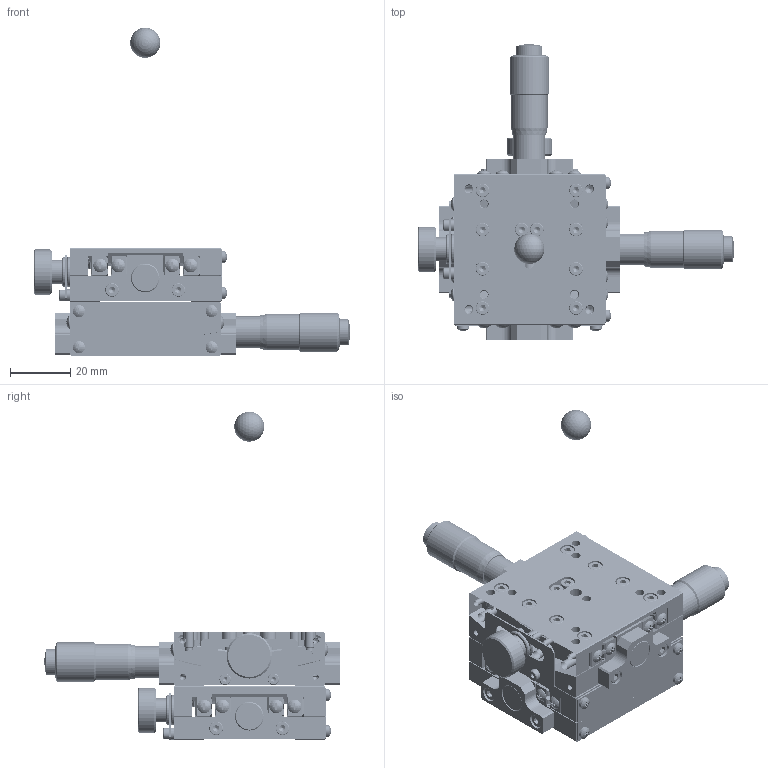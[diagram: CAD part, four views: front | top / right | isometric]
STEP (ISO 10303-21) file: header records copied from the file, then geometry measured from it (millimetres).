
FILE_DESCRIPTION (( 'STEP AP214' ), '1' );
FILE_NAME ('ST05A-C1L.STEP', '2007-01-19T01:30:13', ( ' ' ), ( ' ' ), 'SwSTEP 2.0', 'SolidWorks 2006052', '' );
FILE_SCHEMA (( 'AUTOMOTIVE_DESIGN' ));
Length unit declared in the file: millimetre
Products named in the file (11): 002570-1010(3D)-3; MICROMETERHEAD(MHS4-13)spindle-9; ST05A-C1L-Part-1; 002580-1020(3D)-2; ST05A-C1M(PL)-1; 002560-1130(3D)-9; MICROMETERHEAD(MHS4-13)spindle-8; ST05A-C1B(PL); ST05A-C1L; 002560-1130(3D)-8; 002580-1010(3D)-2
Assembly tree (10 placements, depth 3):
  ST05A-C1L
    ST05A-C1M(PL)-1
      MICROMETERHEAD(MHS4-13)spindle-9
      002570-1010(3D)-3
      002560-1130(3D)-9
    ST05A-C1L-Part-1
    ST05A-C1B(PL)
      002580-1020(3D)-2
      MICROMETERHEAD(MHS4-13)spindle-8
      002560-1130(3D)-8
      002580-1010(3D)-2
Bounding box: 105 x 98 x 109 mm (x, y, z)
Volume: 93009.2 mm3; surface area: 64837.4 mm2
Topology: 8 solids, 82 shells, 3905 faces, 9432 edges, 5603 vertices
Faces by surface type: plane 1706, cylinder 1242, cone 711, torus 184, sphere 62
Entity records: 119512 total; most frequent: CARTESIAN_POINT 28106, DIRECTION 19893, ORIENTED_EDGE 18398, EDGE_CURVE 9199, AXIS2_PLACEMENT_3D 7737, VERTEX_POINT 5600, VECTOR 4419, LINE 4419
